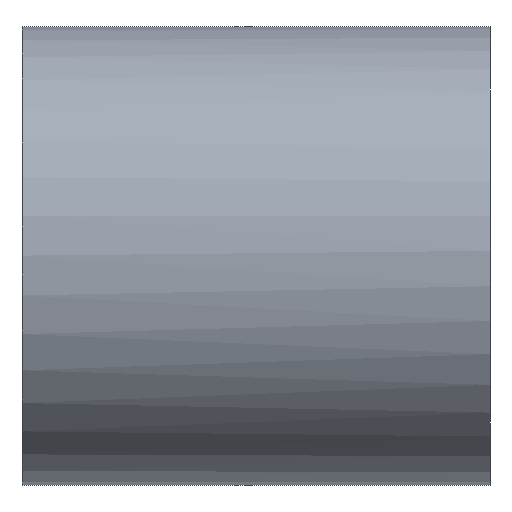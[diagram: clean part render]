
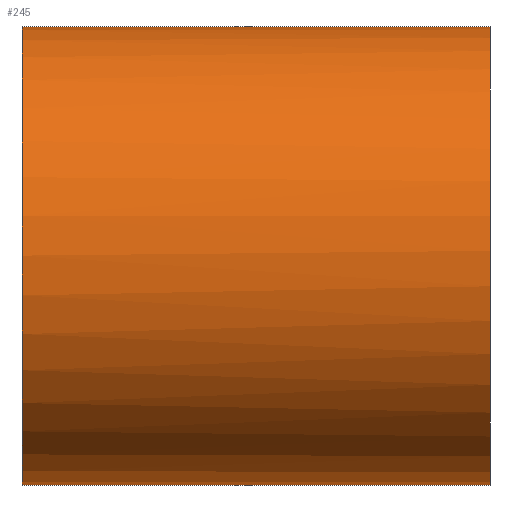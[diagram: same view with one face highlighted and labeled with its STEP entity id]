
A CAD part, top view. The second image highlights one B-rep face of the part: STEP entity #245.
In plain terms, the highlighted cylindrical face has radius 12.25 mm (diameter 24.5 mm), a partial arc.
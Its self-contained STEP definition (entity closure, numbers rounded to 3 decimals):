
#144=CARTESIAN_POINT('Vertex',(25.,12.25,0.)) ;
#146=CARTESIAN_POINT('Vertex',(25.,-12.25,0.)) ;
#150=CARTESIAN_POINT('Control Point',(25.,-12.25,0.)) ;
#151=CARTESIAN_POINT('Control Point',(25.,-12.25,1.2)) ;
#152=CARTESIAN_POINT('Control Point',(25.,-12.103,2.4)) ;
#153=CARTESIAN_POINT('Control Point',(25.,-11.809,3.577)) ;
#154=CARTESIAN_POINT('Control Point',(25.,-10.939,5.833)) ;
#155=CARTESIAN_POINT('Control Point',(25.,-9.55,7.813)) ;
#156=CARTESIAN_POINT('Control Point',(25.,-8.737,8.713)) ;
#157=CARTESIAN_POINT('Control Point',(25.,-6.908,10.294)) ;
#158=CARTESIAN_POINT('Control Point',(25.,-4.75,11.388)) ;
#159=CARTESIAN_POINT('Control Point',(25.,-3.61,11.799)) ;
#160=CARTESIAN_POINT('Control Point',(25.,-1.251,12.334)) ;
#161=CARTESIAN_POINT('Control Point',(25.,1.167,12.283)) ;
#162=CARTESIAN_POINT('Control Point',(25.,2.367,12.11)) ;
#163=CARTESIAN_POINT('Control Point',(25.,4.699,11.472)) ;
#164=CARTESIAN_POINT('Control Point',(25.,6.809,10.29)) ;
#165=CARTESIAN_POINT('Control Point',(25.,7.786,9.572)) ;
#166=CARTESIAN_POINT('Control Point',(25.,9.545,7.911)) ;
#167=CARTESIAN_POINT('Control Point',(25.,10.85,5.875)) ;
#168=CARTESIAN_POINT('Control Point',(25.,11.374,4.782)) ;
#169=CARTESIAN_POINT('Control Point',(25.,11.918,3.163)) ;
#170=CARTESIAN_POINT('Control Point',(25.,12.175,1.485)) ;
#171=CARTESIAN_POINT('Control Point',(25.,12.225,0.991)) ;
#172=CARTESIAN_POINT('Control Point',(25.,12.25,0.495)) ;
#173=CARTESIAN_POINT('Control Point',(25.,12.25,0.)) ;
#193=CARTESIAN_POINT('Vertex',(0.,12.25,0.)) ;
#195=CARTESIAN_POINT('Vertex',(0.,-12.25,0.)) ;
#198=CARTESIAN_POINT('Axis2P3D Location',(0.,0.,0.)) ;
#217=CARTESIAN_POINT('Line Origine',(12.5,12.25,0.)) ;
#222=CARTESIAN_POINT('Line Origine',(12.5,-12.25,0.)) ;
#234=CARTESIAN_POINT('Axis2P3D Location',(12.5,0.,0.)) ;
#199=DIRECTION('Axis2P3D Direction',(-1.,0.,-0.)) ;
#218=DIRECTION('Vector Direction',(1.,0.,0.)) ;
#223=DIRECTION('Vector Direction',(1.,0.,0.)) ;
#235=DIRECTION('Axis2P3D Direction',(1.,-0.,0.)) ;
#236=DIRECTION('Axis2P3D XDirection',(0.,1.,0.)) ;
#200=AXIS2_PLACEMENT_3D('Circle Axis2P3D',#198,#199,$) ;
#237=AXIS2_PLACEMENT_3D('Cylinder Axis2P3D',#234,#235,#236) ;
#240=ORIENTED_EDGE('',*,*,#221,.T.) ;
#241=ORIENTED_EDGE('',*,*,#202,.F.) ;
#242=ORIENTED_EDGE('',*,*,#226,.T.) ;
#243=ORIENTED_EDGE('',*,*,#174,.T.) ;
#219=VECTOR('Line Direction',#218,1.) ;
#224=VECTOR('Line Direction',#223,1.) ;
#245=ADVANCED_FACE('392-B25-025',(#244),#238,.T.) ;
#149=B_SPLINE_CURVE_WITH_KNOTS('',5,(#150,#151,#152,#153,#154,#155,#156,#157,#158,#159,#160,#161,#162,#163,#164,#165,#166,#167,#168,#169,#170,#171,#172,#173),.UNSPECIFIED.,.F.,.U.,(6,3,3,3,3,3,3,6),(0.,8.487,16.974,25.461,33.948,42.435,50.922,54.425),.UNSPECIFIED.) ;
#201=CIRCLE('generated circle',#200,12.25) ;
#238=CYLINDRICAL_SURFACE('generated cylinder',#237,12.25) ;
#174=EDGE_CURVE('',#147,#145,#149,.T.) ;
#202=EDGE_CURVE('',#196,#194,#201,.T.) ;
#221=EDGE_CURVE('',#145,#194,#220,.F.) ;
#226=EDGE_CURVE('',#196,#147,#225,.T.) ;
#239=EDGE_LOOP('',(#240,#241,#242,#243)) ;
#244=FACE_OUTER_BOUND('',#239,.T.) ;
#220=LINE('Line',#217,#219) ;
#225=LINE('Line',#222,#224) ;
#145=VERTEX_POINT('',#144) ;
#147=VERTEX_POINT('',#146) ;
#194=VERTEX_POINT('',#193) ;
#196=VERTEX_POINT('',#195) ;
